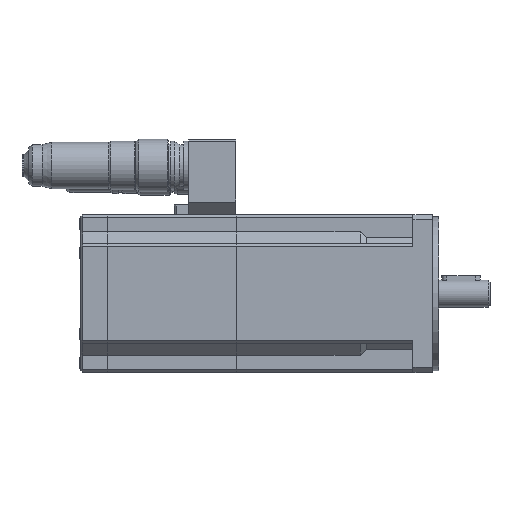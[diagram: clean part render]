
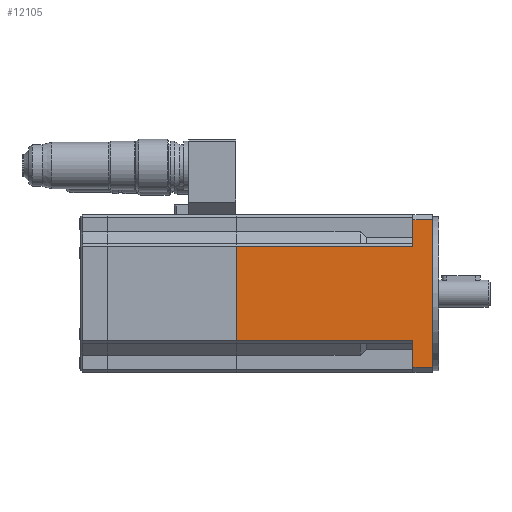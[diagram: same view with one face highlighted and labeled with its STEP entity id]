
A CAD part, top view. The second image highlights one B-rep face of the part: STEP entity #12105.
In plain terms, the highlighted planar face has unit normal (0, 0, 1).
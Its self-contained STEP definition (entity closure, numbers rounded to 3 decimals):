
#11634=CARTESIAN_POINT('',(241.449,79.893,69.755));
#11635=VERTEX_POINT('',#11634);
#11642=CARTESIAN_POINT('',(149.949,79.893,69.755));
#11643=VERTEX_POINT('',#11642);
#11644=CARTESIAN_POINT('',(149.949,79.893,69.755));
#11645=DIRECTION('',(1.0,0.0,0.0));
#11646=VECTOR('',#11645,91.5);
#11647=LINE('',#11644,#11646);
#11648=EDGE_CURVE('',#11643,#11635,#11647,.T.);
#11667=CARTESIAN_POINT('',(241.449,128.893,69.755));
#11668=VERTEX_POINT('',#11667);
#11683=CARTESIAN_POINT('',(149.949,128.893,69.755));
#11684=VERTEX_POINT('',#11683);
#11691=CARTESIAN_POINT('',(149.949,128.893,69.755));
#11692=DIRECTION('',(1.0,0.0,0.0));
#11693=VECTOR('',#11692,91.5);
#11694=LINE('',#11691,#11693);
#11695=EDGE_CURVE('',#11684,#11668,#11694,.T.);
#11857=CARTESIAN_POINT('',(149.949,79.893,69.755));
#11858=DIRECTION('',(0.0,1.0,0.0));
#11859=VECTOR('',#11858,49.);
#11860=LINE('',#11857,#11859);
#11861=EDGE_CURVE('',#11643,#11684,#11860,.T.);
#11968=CARTESIAN_POINT('',(241.449,142.589,69.755));
#11969=VERTEX_POINT('',#11968);
#11970=CARTESIAN_POINT('',(241.449,142.589,69.755));
#11971=DIRECTION('',(0.,-1.0,0.));
#11972=VECTOR('',#11971,13.696);
#11973=LINE('',#11970,#11972);
#11974=EDGE_CURVE('',#11969,#11668,#11973,.T.);
#12046=CARTESIAN_POINT('',(251.449,142.589,69.755));
#12047=VERTEX_POINT('',#12046);
#12048=CARTESIAN_POINT('',(251.449,142.589,69.755));
#12049=DIRECTION('',(-1.0,0.0,0.0));
#12050=VECTOR('',#12049,10.0);
#12051=LINE('',#12048,#12050);
#12052=EDGE_CURVE('',#12047,#11969,#12051,.T.);
#12071=CARTESIAN_POINT('',(251.449,142.589,69.755));
#12072=DIRECTION('',(0.0,0.0,1.0));
#12073=DIRECTION('',(0.0,-1.0,0.0));
#12074=AXIS2_PLACEMENT_3D('',#12071,#12072,#12073);
#12075=PLANE('',#12074);
#12076=ORIENTED_EDGE('',*,*,#11974,.T.);
#12077=ORIENTED_EDGE('',*,*,#11695,.F.);
#12078=ORIENTED_EDGE('',*,*,#11861,.F.);
#12079=ORIENTED_EDGE('',*,*,#11648,.T.);
#12080=CARTESIAN_POINT('',(241.449,66.197,69.755));
#12081=VERTEX_POINT('',#12080);
#12082=CARTESIAN_POINT('',(241.449,79.893,69.755));
#12083=DIRECTION('',(0.,-1.0,0.));
#12084=VECTOR('',#12083,13.696);
#12085=LINE('',#12082,#12084);
#12086=EDGE_CURVE('',#11635,#12081,#12085,.T.);
#12087=ORIENTED_EDGE('',*,*,#12086,.T.);
#12088=CARTESIAN_POINT('',(251.449,66.197,69.755));
#12089=VERTEX_POINT('',#12088);
#12090=CARTESIAN_POINT('',(251.449,66.197,69.755));
#12091=DIRECTION('',(-1.0,0.0,0.0));
#12092=VECTOR('',#12091,10.0);
#12093=LINE('',#12090,#12092);
#12094=EDGE_CURVE('',#12089,#12081,#12093,.T.);
#12095=ORIENTED_EDGE('',*,*,#12094,.F.);
#12096=CARTESIAN_POINT('',(251.449,66.197,69.755));
#12097=DIRECTION('',(0.0,1.0,0.0));
#12098=VECTOR('',#12097,76.392);
#12099=LINE('',#12096,#12098);
#12100=EDGE_CURVE('',#12089,#12047,#12099,.T.);
#12101=ORIENTED_EDGE('',*,*,#12100,.T.);
#12102=ORIENTED_EDGE('',*,*,#12052,.T.);
#12103=EDGE_LOOP('',(#12076,#12077,#12078,#12079,#12087,#12095,#12101,#12102));
#12104=FACE_OUTER_BOUND('',#12103,.T.);
#12105=ADVANCED_FACE('',(#12104),#12075,.T.);
